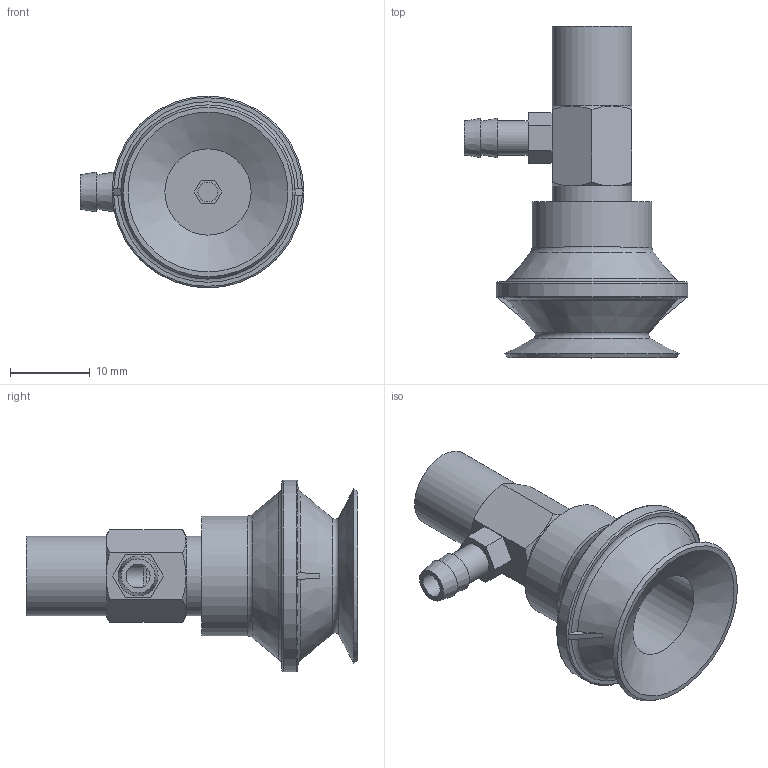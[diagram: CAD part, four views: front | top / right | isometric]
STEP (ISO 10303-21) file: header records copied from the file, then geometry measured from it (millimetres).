
FILE_DESCRIPTION(('STEP AP203'),'1');
FILE_NAME('.stp','2025-04-01T06:24:18',(' '),(' '),'Spatial InterOp 3D',' ',' ');
FILE_SCHEMA(('CONFIG_CONTROL_DESIGN'));
Length unit declared in the file: millimetre
Products named in the file (4): BBPBYK-20-※; Adapter20-Y; PBYK-20; BPBG-20-※
Assembly tree (3 placements, depth 2):
  BBPBYK-20-※
    Adapter20-Y
    PBYK-20
    BPBG-20-※
Bounding box: 28 x 41.5 x 24 mm (x, y, z)
Volume: 5270.2 mm3; surface area: 4422.5 mm2
Topology: 3 solids, 3 shells, 95 faces, 216 edges, 135 vertices
Faces by surface type: plane 42, cone 29, cylinder 15, torus 9
Full cylindrical faces by diameter (mm): 2.5 x1, 3 x2, 3.242 x1, 4.134 x1, 4.26 x1, 4.6 x1, 5 x1, 10 x2, 10.8 x1, 11 x1, 15 x1, 24 x1
Entity records: 2698 total; most frequent: CARTESIAN_POINT 561, DIRECTION 412, ORIENTED_EDGE 346, AXIS2_PLACEMENT_3D 175, EDGE_CURVE 173, EDGE_LOOP 140, VERTEX_POINT 124, FACE_OUTER_BOUND 115
